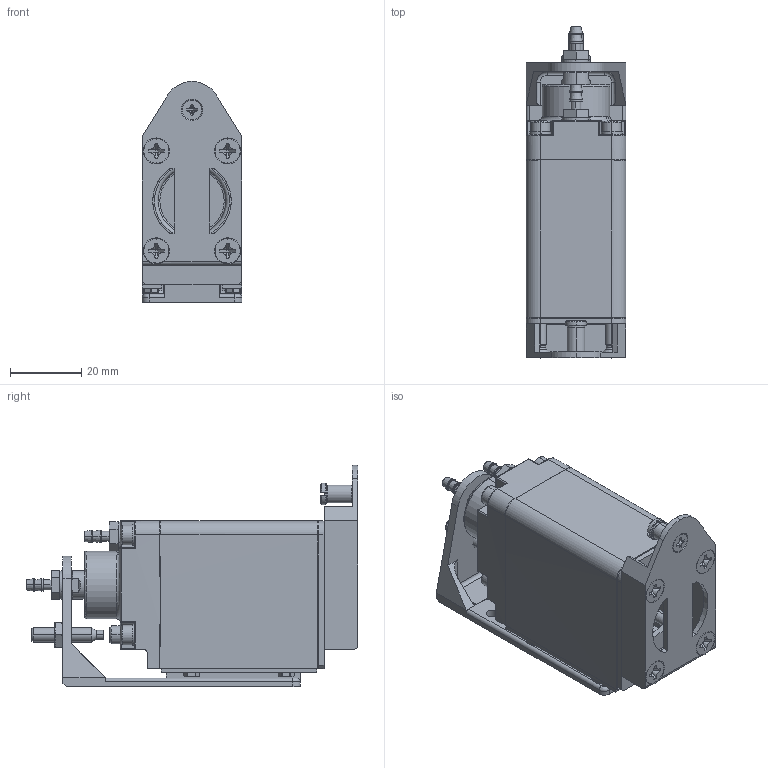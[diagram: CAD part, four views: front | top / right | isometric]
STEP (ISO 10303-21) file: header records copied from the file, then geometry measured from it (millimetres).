
FILE_DESCRIPTION (( 'STEP AP214' ), '1' );
FILE_NAME ('GT-NY10G.STEP', '2019-11-27T01:50:40', ( '微软用户' ), ( '微软中国' ), 'SwSTEP 2.0', 'SolidWorks 2016', '' );
FILE_SCHEMA (( 'AUTOMOTIVE_DESIGN' ));
Length unit declared in the file: millimetre
Products named in the file (1): GT-NY10G
Bounding box: 28 x 93 x 62 mm (x, y, z)
Surface area: 29006.2 mm2 (no closed solid volume)
Topology: 0 solids, 112 shells, 951 faces, 2572 edges, 1776 vertices
Faces by surface type: plane 431, cylinder 308, bspline 101, cone 74, torus 29, sphere 8
Entity records: 45197 total; most frequent: CARTESIAN_POINT 15820, ORIENTED_EDGE 4636, DIRECTION 4380, EDGE_CURVE 2554, VERTEX_POINT 1776, AXIS2_PLACEMENT_3D 1639, LINE 1102, VECTOR 1102
